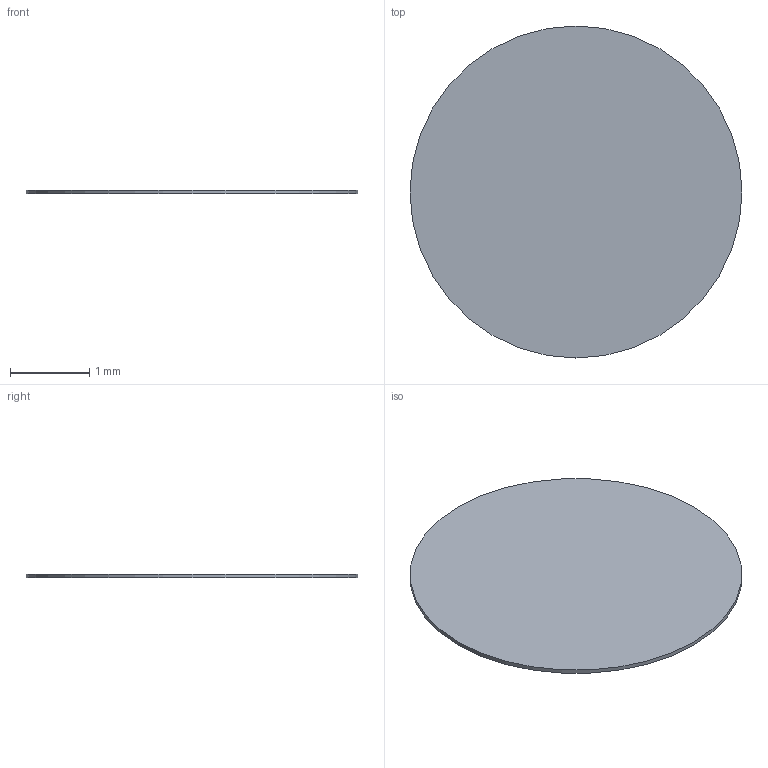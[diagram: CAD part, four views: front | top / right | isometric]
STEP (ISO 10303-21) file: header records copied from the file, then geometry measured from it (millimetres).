
FILE_DESCRIPTION(/* description */ (''),/* implementation_level */ '2;1');
FILE_NAME(/* name */ 'C27_R2_Optical_Coupling_Film.step',/* time_stamp */ '2026-09-10T17:49:26-07:00',/* author */ (''),/* organization */ (''),/* preprocessor_version */ 'ST-DEVELOPER v20.1',/* originating_system */ 'Autodesk Translation Framework v15.8.0.0',/* authorisation */ '');
FILE_SCHEMA (('AUTOMOTIVE_DESIGN { 1 0 10303 214 3 1 1 }'));
Length unit declared in the file: millimetre
Products named in the file (1): 2026-09-10-17-49-26-245
Bounding box: 4.2 x 4.2 x 0.05 mm (x, y, z)
Volume: 0.7 mm3; surface area: 28.4 mm2
Topology: 1 solids, 1 shells, 3 faces, 3 edges, 2 vertices
Faces by surface type: plane 2, cylinder 1
Full cylindrical faces by diameter (mm): 4.2 x1
Entity records: 92 total; most frequent: DIRECTION 13, CARTESIAN_POINT 9, ORIENTED_EDGE 6, AXIS2_PLACEMENT_3D 6, FACE_OUTER_BOUND 3, EDGE_LOOP 3, EDGE_CURVE 3, ADVANCED_FACE 3
